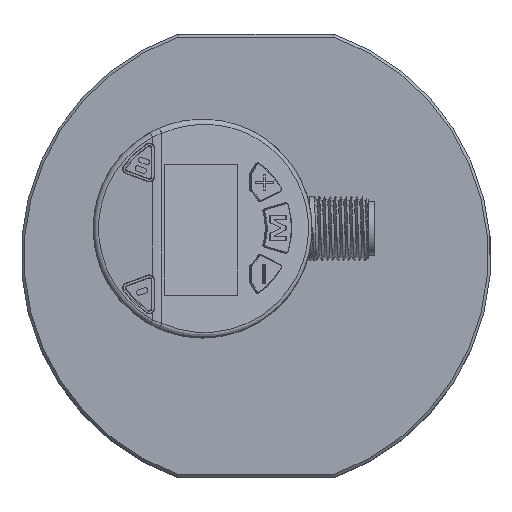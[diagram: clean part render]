
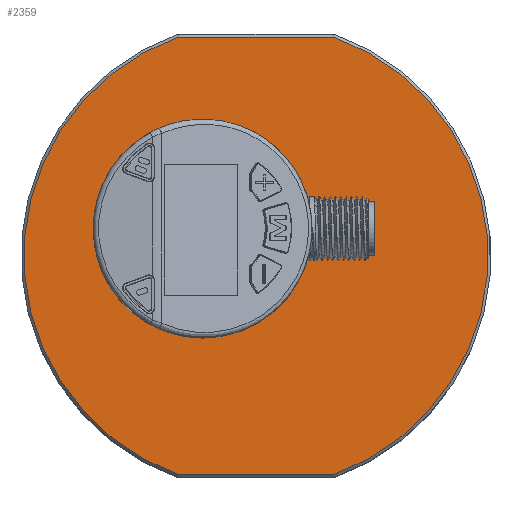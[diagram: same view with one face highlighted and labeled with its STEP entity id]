
A CAD part, top view. The second image highlights one B-rep face of the part: STEP entity #2359.
In plain terms, the highlighted planar face has unit normal (0, 0, 1).
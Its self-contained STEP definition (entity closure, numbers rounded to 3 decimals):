
#1749=PLANE('',#8735);
#2359=ADVANCED_FACE('',(#2971),#1749,.T.);
#2971=FACE_OUTER_BOUND('',#3346,.T.);
#3346=EDGE_LOOP('',(#4432,#4433,#4434,#4435));
#3928=CIRCLE('',#8733,43.5);
#3929=CIRCLE('',#8734,43.5);
#4432=ORIENTED_EDGE('',*,*,#6954,.T.);
#4433=ORIENTED_EDGE('',*,*,#6955,.T.);
#4434=ORIENTED_EDGE('',*,*,#6956,.T.);
#4435=ORIENTED_EDGE('',*,*,#6957,.T.);
#6298=VERTEX_POINT('',#14257);
#6299=VERTEX_POINT('',#14258);
#6300=VERTEX_POINT('',#14260);
#6301=VERTEX_POINT('',#14262);
#6954=EDGE_CURVE('',#6298,#6299,#3928,.T.);
#6955=EDGE_CURVE('',#6299,#6300,#7891,.T.);
#6956=EDGE_CURVE('',#6300,#6301,#3929,.T.);
#6957=EDGE_CURVE('',#6301,#6298,#7892,.T.);
#7891=LINE('',#14259,#8305);
#7892=LINE('',#14263,#8306);
#8305=VECTOR('',#9636,1.);
#8306=VECTOR('',#9639,1.);
#8733=AXIS2_PLACEMENT_3D('',#14256,#9634,#9635);
#8734=AXIS2_PLACEMENT_3D('',#14261,#9637,#9638);
#8735=AXIS2_PLACEMENT_3D('',#14264,#9640,#9641);
#9634=DIRECTION('',(0.,0.,1.));
#9635=DIRECTION('',(1.,0.,0.));
#9636=DIRECTION('',(-1.,0.,0.));
#9637=DIRECTION('',(0.,0.,1.));
#9638=DIRECTION('',(1.,0.,0.));
#9639=DIRECTION('',(1.,0.,0.));
#9640=DIRECTION('',(0.,0.,1.));
#9641=DIRECTION('',(-1.,0.,0.));
#14256=CARTESIAN_POINT('',(0.,0.,0.));
#14257=CARTESIAN_POINT('',(14.534,-41.,0.));
#14258=CARTESIAN_POINT('',(14.534,41.,0.));
#14259=CARTESIAN_POINT('',(0.,41.,0.));
#14260=CARTESIAN_POINT('',(-14.534,41.,0.));
#14261=CARTESIAN_POINT('',(0.,0.,0.));
#14262=CARTESIAN_POINT('',(-14.534,-41.,0.));
#14263=CARTESIAN_POINT('',(14.62,-41.,0.));
#14264=CARTESIAN_POINT('',(0.,0.,0.));
